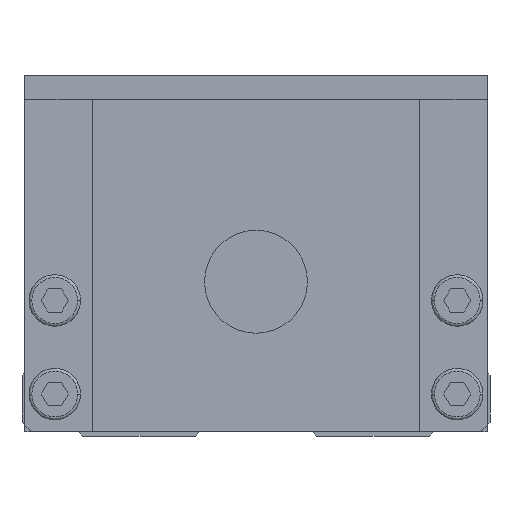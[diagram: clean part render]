
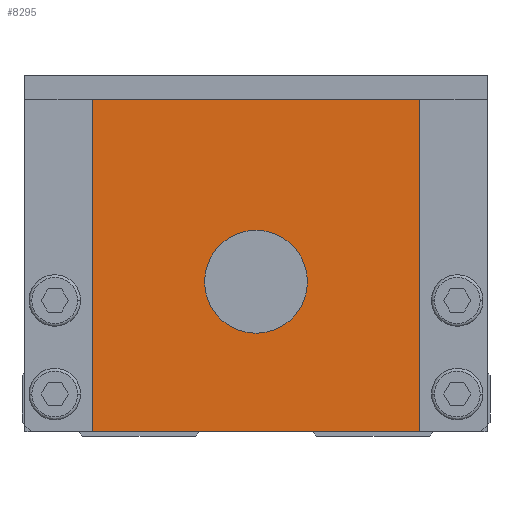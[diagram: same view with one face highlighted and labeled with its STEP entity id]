
A CAD part, front view. The second image highlights one B-rep face of the part: STEP entity #8295.
In plain terms, the highlighted planar face has unit normal (0, -1, 0).
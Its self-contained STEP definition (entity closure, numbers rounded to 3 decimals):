
#5085=VERTEX_POINT('',#14944);
#5089=VERTEX_POINT('',#14948);
#5429=EDGE_CURVE('',#6863,#10957,#15335,.T.);
#5965=EDGE_CURVE('',#8153,#9611,#15921,.T.);
#6863=VERTEX_POINT('',#16913);
#8117=EDGE_CURVE('',#10957,#6863,#18308,.T.);
#8153=VERTEX_POINT('',#18350);
#8295=ADVANCED_FACE('',(#18504,#18505),#18506,.F.);
#9611=VERTEX_POINT('',#19964);
#10957=VERTEX_POINT('',#21444);
#11063=EDGE_CURVE('',#5089,#8153,#21555,.T.);
#12117=EDGE_CURVE('',#5085,#9611,#22724,.T.);
#13527=EDGE_CURVE('',#5085,#5089,#24312,.T.);
#14944=CARTESIAN_POINT('',(-17.5,0.0,36.0));
#14948=CARTESIAN_POINT('',(17.5,0.0,36.0));
#15335=CIRCLE('',#26505,5.5);
#15921=LINE('',#27377,#27378);
#16913=CARTESIAN_POINT('',(5.5,0.0,16.5));
#18308=CIRCLE('',#30937,5.5);
#18350=CARTESIAN_POINT('',(17.5,0.0,0.5));
#18504=FACE_BOUND('',#31199,.T.);
#18505=FACE_OUTER_BOUND('',#31200,.T.);
#18506=PLANE('',#31201);
#19964=CARTESIAN_POINT('',(-17.5,0.0,0.5));
#21444=CARTESIAN_POINT('',(-5.5,0.0,16.5));
#21555=LINE('',#35751,#35752);
#22724=LINE('',#37364,#37365);
#24312=LINE('',#39646,#39647);
#26505=AXIS2_PLACEMENT_3D('',#42316,#42317,#42318);
#27377=CARTESIAN_POINT('',(0.0,0.0,0.5));
#27378=VECTOR('',#42934,1.0);
#30937=AXIS2_PLACEMENT_3D('',#45646,#45647,#45648);
#31199=EDGE_LOOP('',(#45851,#45852));
#31200=EDGE_LOOP('',(#45853,#45854,#45855,#45856));
#31201=AXIS2_PLACEMENT_3D('',#45857,#45858,#45859);
#35751=CARTESIAN_POINT('',(17.5,0.0,18.25));
#35752=VECTOR('',#49199,1.0);
#37364=CARTESIAN_POINT('',(-17.5,0.0,18.25));
#37365=VECTOR('',#50579,1.0);
#39646=CARTESIAN_POINT('',(0.0,0.0,36.0));
#39647=VECTOR('',#52496,1.0);
#42316=CARTESIAN_POINT('',(0.0,0.0,16.5));
#42317=DIRECTION('',(-0.0,1.0,0.0));
#42318=DIRECTION('',(1.0,0.0,0.0));
#42934=DIRECTION('',(-1.0,0.0,0.0));
#45646=CARTESIAN_POINT('',(0.0,0.0,16.5));
#45647=DIRECTION('',(-0.0,1.0,0.0));
#45648=DIRECTION('',(1.0,0.0,0.0));
#45851=ORIENTED_EDGE('',*,*,#5429,.T.);
#45852=ORIENTED_EDGE('',*,*,#8117,.T.);
#45853=ORIENTED_EDGE('',*,*,#12117,.T.);
#45854=ORIENTED_EDGE('',*,*,#5965,.F.);
#45855=ORIENTED_EDGE('',*,*,#11063,.F.);
#45856=ORIENTED_EDGE('',*,*,#13527,.F.);
#45857=CARTESIAN_POINT('',(0.0,0.0,18.25));
#45858=DIRECTION('',(0.0,1.0,0.0));
#45859=DIRECTION('',(0.0,0.0,1.0));
#49199=DIRECTION('',(0.0,0.0,-1.0));
#50579=DIRECTION('',(0.0,0.0,-1.0));
#52496=DIRECTION('',(1.0,0.0,0.0));
